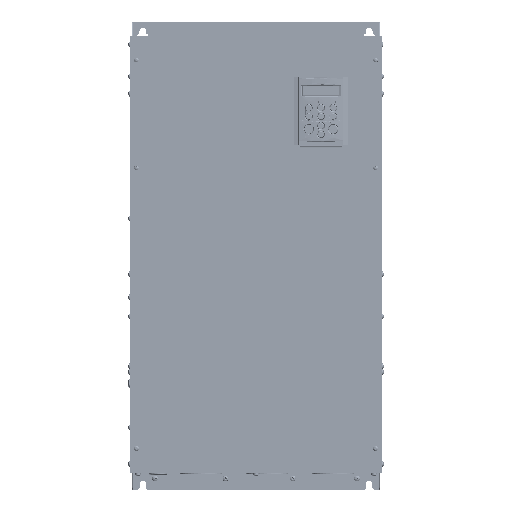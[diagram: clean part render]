
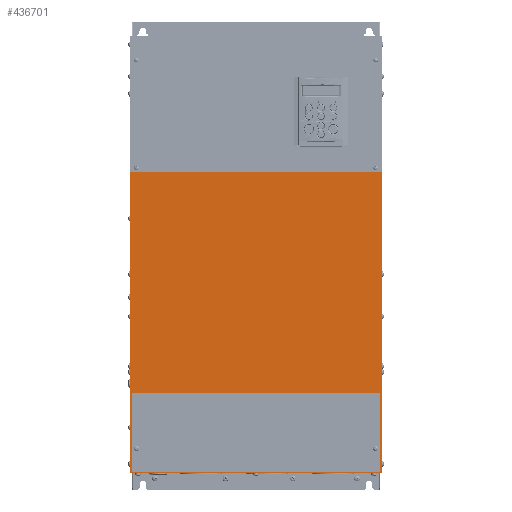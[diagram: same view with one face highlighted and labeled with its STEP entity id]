
A CAD part, top view. The second image highlights one B-rep face of the part: STEP entity #436701.
In plain terms, the highlighted planar face has unit normal (0, 0, 1).
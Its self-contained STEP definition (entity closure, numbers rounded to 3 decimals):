
#5685=FACE_BOUND('',#67270,.T.);
#42744=FACE_OUTER_BOUND('',#67269,.T.);
#67269=EDGE_LOOP('',(#321586,#321587,#321588,#321589));
#67270=EDGE_LOOP('',(#321590,#321591,#321592,#321593));
#96884=LINE('',#761655,#138299);
#96886=LINE('',#761659,#138301);
#96939=LINE('',#761761,#138354);
#96953=LINE('',#761785,#138368);
#97714=LINE('',#765227,#139129);
#97715=LINE('',#765229,#139130);
#97716=LINE('',#765231,#139131);
#97717=LINE('',#765232,#139132);
#138299=VECTOR('',#536732,411.);
#138301=VECTOR('',#536736,492.);
#138354=VECTOR('',#536819,411.);
#138368=VECTOR('',#536847,492.);
#139129=VECTOR('',#538932,10.);
#139130=VECTOR('',#538933,10.);
#139131=VECTOR('',#538934,10.);
#139132=VECTOR('',#538935,10.);
#181784=VERTEX_POINT('',#761652);
#181785=VERTEX_POINT('',#761654);
#181786=VERTEX_POINT('',#761658);
#181820=VERTEX_POINT('',#761760);
#182569=VERTEX_POINT('',#765225);
#182570=VERTEX_POINT('',#765226);
#182571=VERTEX_POINT('',#765228);
#182572=VERTEX_POINT('',#765230);
#231637=EDGE_CURVE('',#181785,#181784,#96884,.T.);
#231639=EDGE_CURVE('',#181786,#181785,#96886,.T.);
#231692=EDGE_CURVE('',#181820,#181786,#96939,.T.);
#231706=EDGE_CURVE('',#181784,#181820,#96953,.T.);
#232821=EDGE_CURVE('',#182569,#182570,#97714,.T.);
#232822=EDGE_CURVE('',#182570,#182571,#97715,.T.);
#232823=EDGE_CURVE('',#182571,#182572,#97716,.T.);
#232824=EDGE_CURVE('',#182572,#182569,#97717,.T.);
#321586=ORIENTED_EDGE('',*,*,#231706,.T.);
#321587=ORIENTED_EDGE('',*,*,#231692,.T.);
#321588=ORIENTED_EDGE('',*,*,#231639,.T.);
#321589=ORIENTED_EDGE('',*,*,#231637,.T.);
#321590=ORIENTED_EDGE('',*,*,#232821,.T.);
#321591=ORIENTED_EDGE('',*,*,#232822,.T.);
#321592=ORIENTED_EDGE('',*,*,#232823,.T.);
#321593=ORIENTED_EDGE('',*,*,#232824,.T.);
#396727=PLANE('',#467724);
#436701=ADVANCED_FACE('',(#42744,#5685),#396727,.T.);
#467724=AXIS2_PLACEMENT_3D('',#765224,#538930,#538931);
#536732=DIRECTION('',(1.,0.,0.));
#536736=DIRECTION('',(0.,-1.,0.));
#536819=DIRECTION('',(-1.,0.,0.));
#536847=DIRECTION('',(0.,1.,0.));
#538930=DIRECTION('center_axis',(0.,0.,
1.));
#538931=DIRECTION('ref_axis',(1.,0.,0.));
#538932=DIRECTION('',(0.,-1.,0.));
#538933=DIRECTION('',(-1.,0.,0.));
#538934=DIRECTION('',(0.,1.,0.));
#538935=DIRECTION('',(1.,0.,0.));
#761652=CARTESIAN_POINT('',(2.5,-107.5,300.));
#761654=CARTESIAN_POINT('',(-408.5,-107.5,300.));
#761655=CARTESIAN_POINT('',(-408.5,-107.5,300.));
#761658=CARTESIAN_POINT('',(-408.5,384.5,300.));
#761659=CARTESIAN_POINT('',(-408.5,384.5,300.));
#761760=CARTESIAN_POINT('',(2.5,384.5,300.));
#761761=CARTESIAN_POINT('',(2.5,384.5,300.));
#761785=CARTESIAN_POINT('',(2.5,-107.5,300.));
#765224=CARTESIAN_POINT('Origin',(-406.,0.,300.));
#765225=CARTESIAN_POINT('',(0.5,22.55,300.));
#765226=CARTESIAN_POINT('',(0.5,-105.5,300.));
#765227=CARTESIAN_POINT('',(0.5,-73.818,300.));
#765228=CARTESIAN_POINT('',(-406.5,-105.5,300.));
#765229=CARTESIAN_POINT('',(-150.2,-105.5,300.));
#765230=CARTESIAN_POINT('',(-406.5,22.55,300.));
#765231=CARTESIAN_POINT('',(-406.5,-52.75,300.));
#765232=CARTESIAN_POINT('',(-150.2,22.55,300.));
